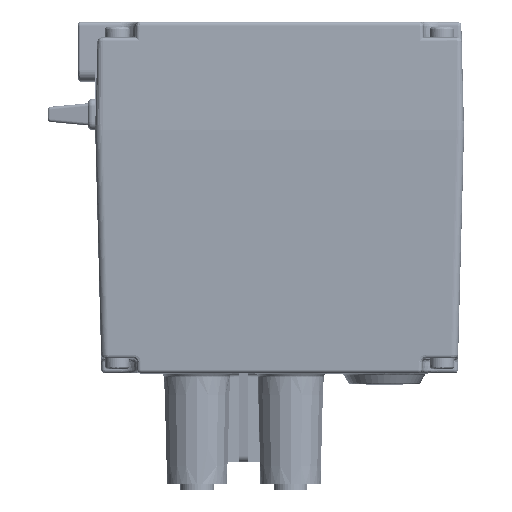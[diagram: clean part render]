
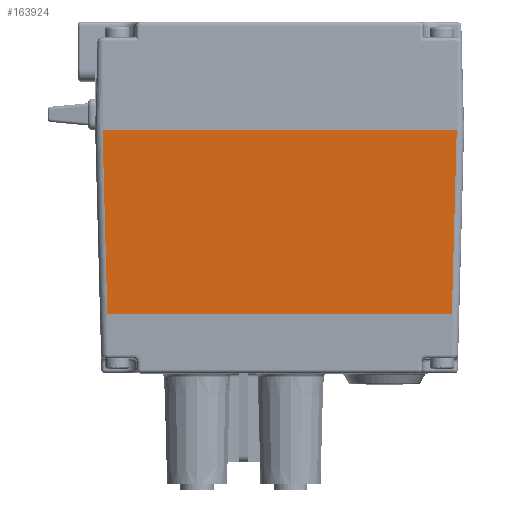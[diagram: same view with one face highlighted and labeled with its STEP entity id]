
A CAD part, top view. The second image highlights one B-rep face of the part: STEP entity #163924.
In plain terms, the highlighted planar face has unit normal (0, -0.026, 1).
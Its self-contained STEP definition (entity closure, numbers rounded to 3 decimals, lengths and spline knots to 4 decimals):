
#10900 = CARTESIAN_POINT ( 'NONE',  ( -0.5998, 0., 0.4921 ) ) ;
#10902 = FACE_OUTER_BOUND ( 'NONE', #216871, .T. ) ;
#10904 = PLANE ( 'NONE',  #164439 ) ;
#10906 = DIRECTION ( 'NONE',  ( 0., -0.026, 1. ) ) ;
#10908 = DIRECTION ( 'NONE',  ( 0., -1., -0.026 ) ) ;
#163924 = ADVANCED_FACE ( 'NONE', ( #10902 ), #10904, .T. ) ;
#164439 = AXIS2_PLACEMENT_3D ( 'NONE', #10900, #10906, #10908 ) ;
#180476 = VERTEX_POINT ( 'NONE', #243499 ) ;
#180509 = VERTEX_POINT ( 'NONE', #243520 ) ;
#181734 = VERTEX_POINT ( 'NONE', #243630 ) ;
#181738 = VERTEX_POINT ( 'NONE', #243634 ) ;
#198374 = VECTOR ( 'NONE', #201406, 39.3701 ) ;
#198380 = VECTOR ( 'NONE', #201400, 39.3701 ) ;
#198386 = VECTOR ( 'NONE', #201432, 39.3701 ) ;
#198388 = VECTOR ( 'NONE', #201439, 39.3701 ) ;
#201385 = LINE ( 'NONE', #201402, #198374 ) ;
#201395 = LINE ( 'NONE', #201398, #198380 ) ;
#201398 = CARTESIAN_POINT ( 'NONE',  ( -0.5998, -0.9843, 0.4664 ) ) ;
#201400 = DIRECTION ( 'NONE',  ( 1., 0., 0. ) ) ;
#201402 = CARTESIAN_POINT ( 'NONE',  ( 1.3719, -0.9843, 0.4664 ) ) ;
#201406 = DIRECTION ( 'NONE',  ( 0.026, 0.999, 0.026 ) ) ;
#201427 = LINE ( 'NONE', #201430, #198386 ) ;
#201430 = CARTESIAN_POINT ( 'NONE',  ( -0.5998, 0., 0.4921 ) ) ;
#201432 = DIRECTION ( 'NONE',  ( -1., 0., 0. ) ) ;
#201434 = LINE ( 'NONE', #201437, #198388 ) ;
#201437 = CARTESIAN_POINT ( 'NONE',  ( -0.4921, 0., 0.4921 ) ) ;
#201439 = DIRECTION ( 'NONE',  ( 0.026, -0.999, -0.026 ) ) ;
#216871 = EDGE_LOOP ( 'NONE', ( #223108, #223110, #223112, #223114 ) ) ;
#223108 = ORIENTED_EDGE ( 'NONE', *, *, #241129, .T. ) ;
#223110 = ORIENTED_EDGE ( 'NONE', *, *, #241133, .T. ) ;
#223112 = ORIENTED_EDGE ( 'NONE', *, *, #241115, .T. ) ;
#223114 = ORIENTED_EDGE ( 'NONE', *, *, #241119, .T. ) ;
#241115 = EDGE_CURVE ( 'NONE', #180476, #181734, #201395, .T. ) ;
#241119 = EDGE_CURVE ( 'NONE', #181734, #180509, #201385, .T. ) ;
#241129 = EDGE_CURVE ( 'NONE', #180509, #181738, #201427, .T. ) ;
#241133 = EDGE_CURVE ( 'NONE', #181738, #180476, #201434, .T. ) ;
#243499 = CARTESIAN_POINT ( 'NONE',  ( -0.4664, -0.9843, 0.4664 ) ) ;
#243520 = CARTESIAN_POINT ( 'NONE',  ( 1.3977, 0., 0.4921 ) ) ;
#243630 = CARTESIAN_POINT ( 'NONE',  ( 1.3719, -0.9843, 0.4664 ) ) ;
#243634 = CARTESIAN_POINT ( 'NONE',  ( -0.4921, 0., 0.4921 ) ) ;
